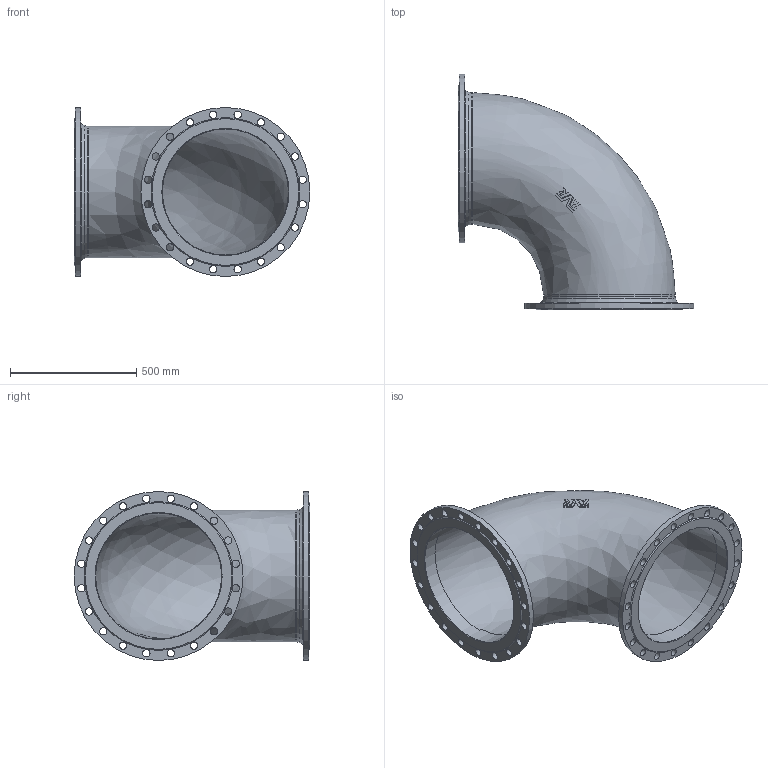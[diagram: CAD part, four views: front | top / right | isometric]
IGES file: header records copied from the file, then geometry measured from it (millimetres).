
Start section: SolidWorks IGES file using analytic representation for surfaces
Global section: file name: \\avksan2\techshare\PBM outline export from Enovia\O_712_0610_DN500_0X_REV01.igs; native system: SolidWorks 2019; preprocessor: SolidWorks 2019; author: pbm; date: 211119.112058; units: millimetre
Bounding box: 935 x 935 x 670 mm (x, y, z)
Surface area: 5026321 mm2 (no closed solid volume)
Topology: 0 solids, 2 shells, 112 faces, 569 edges, 506 vertices
Faces by surface type: revolution 69, bspline 43
